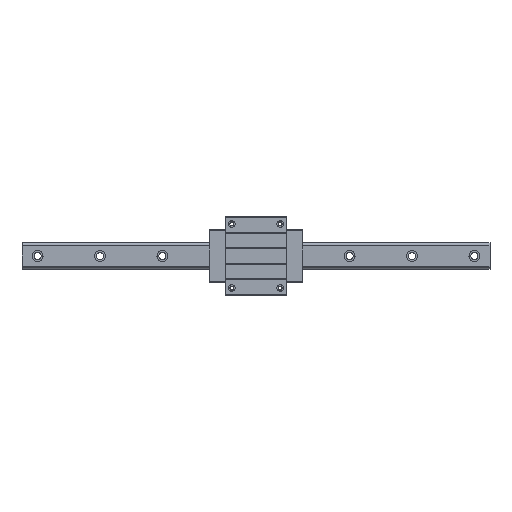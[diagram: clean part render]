
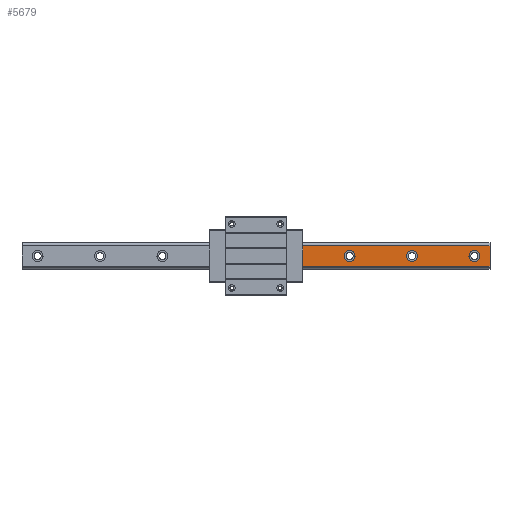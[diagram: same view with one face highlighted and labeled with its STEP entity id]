
A CAD part, top view. The second image highlights one B-rep face of the part: STEP entity #5679.
In plain terms, the highlighted planar face has unit normal (0, 0, 1).
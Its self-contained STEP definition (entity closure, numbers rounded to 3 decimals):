
#33 = CARTESIAN_POINT ( 'NONE',  ( 273., 0., 26. ) ) ;
#214 = CARTESIAN_POINT ( 'NONE',  ( 280., 0., 26. ) ) ;
#382 = DIRECTION ( 'NONE',  ( -1., 0., 0. ) ) ;
#510 = CARTESIAN_POINT ( 'NONE',  ( 60.25, -13.408, 26. ) ) ;
#530 = CARTESIAN_POINT ( 'NONE',  ( 60.25, 13.408, 26. ) ) ;
#574 = FACE_BOUND ( 'NONE', #3310, .T. ) ;
#798 = DIRECTION ( 'NONE',  ( -1., 0., 0. ) ) ;
#827 = EDGE_CURVE ( 'NONE', #5280, #4250, #4576, .T. ) ;
#909 = EDGE_CURVE ( 'NONE', #3251, #1656, #6446, .T. ) ;
#918 = DIRECTION ( 'NONE',  ( 0., 0., -1. ) ) ;
#977 = CARTESIAN_POINT ( 'NONE',  ( 300., 13.408, 26. ) ) ;
#1021 = VERTEX_POINT ( 'NONE', #530 ) ;
#1030 = DIRECTION ( 'NONE',  ( 0., -1., 0. ) ) ;
#1061 = VERTEX_POINT ( 'NONE', #33 ) ;
#1139 = CARTESIAN_POINT ( 'NONE',  ( 200., 0., 26. ) ) ;
#1181 = VECTOR ( 'NONE', #6199, 1000. ) ;
#1228 = EDGE_LOOP ( 'NONE', ( #6308, #1842, #2205, #3654 ) ) ;
#1484 = CIRCLE ( 'NONE', #3792, 7. ) ;
#1496 = FACE_BOUND ( 'NONE', #5564, .T. ) ;
#1607 = AXIS2_PLACEMENT_3D ( 'NONE', #2672, #5713, #5183 ) ;
#1633 = ORIENTED_EDGE ( 'NONE', *, *, #3393, .T. ) ;
#1656 = VERTEX_POINT ( 'NONE', #2264 ) ;
#1842 = ORIENTED_EDGE ( 'NONE', *, *, #1924, .F. ) ;
#1897 = CARTESIAN_POINT ( 'NONE',  ( 120., 0., 26. ) ) ;
#1924 = EDGE_CURVE ( 'NONE', #3251, #1021, #6262, .T. ) ;
#1949 = DIRECTION ( 'NONE',  ( 1., 0., 0. ) ) ;
#2028 = PLANE ( 'NONE',  #5127 ) ;
#2043 = CARTESIAN_POINT ( 'NONE',  ( 127., 0., 26. ) ) ;
#2205 = ORIENTED_EDGE ( 'NONE', *, *, #909, .T. ) ;
#2241 = VECTOR ( 'NONE', #4260, 1000. ) ;
#2264 = CARTESIAN_POINT ( 'NONE',  ( 300., -13.408, 26. ) ) ;
#2326 = DIRECTION ( 'NONE',  ( 0., 0., -1. ) ) ;
#2355 = DIRECTION ( 'NONE',  ( 0., -1., 0. ) ) ;
#2474 = VERTEX_POINT ( 'NONE', #2043 ) ;
#2494 = EDGE_CURVE ( 'NONE', #6144, #1021, #5479, .T. ) ;
#2567 = EDGE_CURVE ( 'NONE', #5877, #2474, #5690, .T. ) ;
#2595 = AXIS2_PLACEMENT_3D ( 'NONE', #4934, #2326, #382 ) ;
#2672 = CARTESIAN_POINT ( 'NONE',  ( 120., 0., 26. ) ) ;
#2758 = CIRCLE ( 'NONE', #4828, 7. ) ;
#2818 = CARTESIAN_POINT ( 'NONE',  ( 287., 0., 26. ) ) ;
#2862 = VECTOR ( 'NONE', #2355, 1000. ) ;
#2920 = ORIENTED_EDGE ( 'NONE', *, *, #5531, .T. ) ;
#3067 = EDGE_CURVE ( 'NONE', #6144, #1656, #4316, .T. ) ;
#3224 = CARTESIAN_POINT ( 'NONE',  ( 207., 0., 26. ) ) ;
#3248 = CARTESIAN_POINT ( 'NONE',  ( 60.25, -13.408, 26. ) ) ;
#3251 = VERTEX_POINT ( 'NONE', #510 ) ;
#3289 = CARTESIAN_POINT ( 'NONE',  ( 300., 13.408, 26. ) ) ;
#3300 = EDGE_CURVE ( 'NONE', #4250, #5280, #1484, .T. ) ;
#3310 = EDGE_LOOP ( 'NONE', ( #1633, #4313 ) ) ;
#3393 = EDGE_CURVE ( 'NONE', #4396, #1061, #2758, .T. ) ;
#3430 = VECTOR ( 'NONE', #1949, 1000. ) ;
#3441 = DIRECTION ( 'NONE',  ( 0., 0., -1. ) ) ;
#3507 = DIRECTION ( 'NONE',  ( 0., 0., -1. ) ) ;
#3524 = CARTESIAN_POINT ( 'NONE',  ( 193., 0., 26. ) ) ;
#3566 = AXIS2_PLACEMENT_3D ( 'NONE', #1897, #3441, #798 ) ;
#3609 = DIRECTION ( 'NONE',  ( -1., 0., 0. ) ) ;
#3654 = ORIENTED_EDGE ( 'NONE', *, *, #3067, .F. ) ;
#3673 = CIRCLE ( 'NONE', #3566, 7. ) ;
#3792 = AXIS2_PLACEMENT_3D ( 'NONE', #1139, #4733, #3609 ) ;
#4024 = FACE_OUTER_BOUND ( 'NONE', #1228, .T. ) ;
#4218 = CARTESIAN_POINT ( 'NONE',  ( 113., 0., 26. ) ) ;
#4228 = ORIENTED_EDGE ( 'NONE', *, *, #3300, .T. ) ;
#4250 = VERTEX_POINT ( 'NONE', #3224 ) ;
#4260 = DIRECTION ( 'NONE',  ( -1., 0., 0. ) ) ;
#4313 = ORIENTED_EDGE ( 'NONE', *, *, #4363, .T. ) ;
#4316 = LINE ( 'NONE', #5865, #2862 ) ;
#4363 = EDGE_CURVE ( 'NONE', #1061, #4396, #5409, .T. ) ;
#4396 = VERTEX_POINT ( 'NONE', #2818 ) ;
#4508 = CARTESIAN_POINT ( 'NONE',  ( 300., 0., 26. ) ) ;
#4576 = CIRCLE ( 'NONE', #4682, 7. ) ;
#4643 = DIRECTION ( 'NONE',  ( -1., 0., 0. ) ) ;
#4675 = DIRECTION ( 'NONE',  ( 0., 0., -1. ) ) ;
#4682 = AXIS2_PLACEMENT_3D ( 'NONE', #6237, #918, #5744 ) ;
#4733 = DIRECTION ( 'NONE',  ( 0., 0., -1. ) ) ;
#4828 = AXIS2_PLACEMENT_3D ( 'NONE', #214, #4675, #4643 ) ;
#4934 = CARTESIAN_POINT ( 'NONE',  ( 280., 0., 26. ) ) ;
#5087 = EDGE_LOOP ( 'NONE', ( #2920, #5525 ) ) ;
#5127 = AXIS2_PLACEMENT_3D ( 'NONE', #4508, #3507, #1030 ) ;
#5148 = ORIENTED_EDGE ( 'NONE', *, *, #827, .T. ) ;
#5183 = DIRECTION ( 'NONE',  ( -1., 0., 0. ) ) ;
#5280 = VERTEX_POINT ( 'NONE', #3524 ) ;
#5353 = CARTESIAN_POINT ( 'NONE',  ( 300., -13.408, 26. ) ) ;
#5409 = CIRCLE ( 'NONE', #2595, 7. ) ;
#5479 = LINE ( 'NONE', #977, #2241 ) ;
#5525 = ORIENTED_EDGE ( 'NONE', *, *, #2567, .T. ) ;
#5531 = EDGE_CURVE ( 'NONE', #2474, #5877, #3673, .T. ) ;
#5564 = EDGE_LOOP ( 'NONE', ( #4228, #5148 ) ) ;
#5566 = FACE_BOUND ( 'NONE', #5087, .T. ) ;
#5679 = ADVANCED_FACE ( 'NONE', ( #574, #1496, #5566, #4024 ), #2028, .F. ) ;
#5690 = CIRCLE ( 'NONE', #1607, 7. ) ;
#5713 = DIRECTION ( 'NONE',  ( 0., 0., -1. ) ) ;
#5744 = DIRECTION ( 'NONE',  ( -1., 0., 0. ) ) ;
#5865 = CARTESIAN_POINT ( 'NONE',  ( 300., 13.6, 26. ) ) ;
#5877 = VERTEX_POINT ( 'NONE', #4218 ) ;
#6144 = VERTEX_POINT ( 'NONE', #3289 ) ;
#6199 = DIRECTION ( 'NONE',  ( 0., 1., 0. ) ) ;
#6237 = CARTESIAN_POINT ( 'NONE',  ( 200., 0., 26. ) ) ;
#6262 = LINE ( 'NONE', #3248, #1181 ) ;
#6308 = ORIENTED_EDGE ( 'NONE', *, *, #2494, .T. ) ;
#6446 = LINE ( 'NONE', #5353, #3430 ) ;
